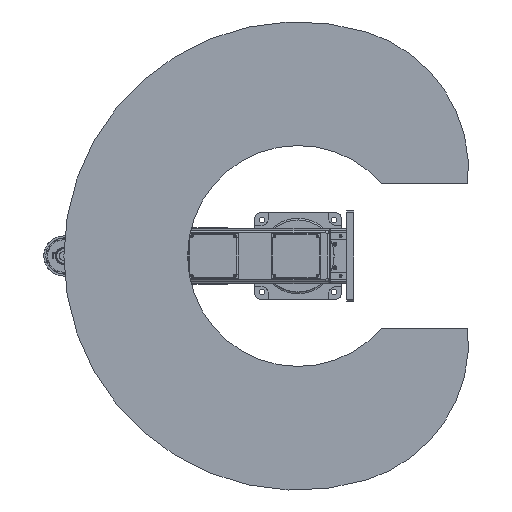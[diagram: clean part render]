
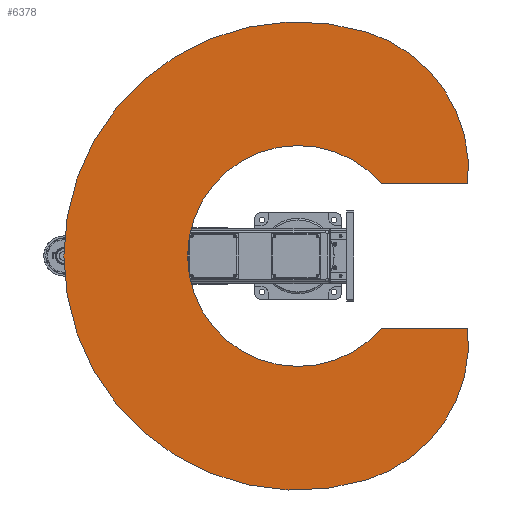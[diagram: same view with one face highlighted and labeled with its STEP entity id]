
A CAD part, front view. The second image highlights one B-rep face of the part: STEP entity #6378.
In plain terms, the highlighted planar face has unit normal (0, -1, 0).
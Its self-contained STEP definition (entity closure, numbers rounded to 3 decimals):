
#6378 = ADVANCED_FACE( '', ( #14263 ), #14264, .F. );
#14263 = FACE_OUTER_BOUND( '', #23914, .T. );
#14264 = PLANE( '', #23915 );
#23914 = EDGE_LOOP( '', ( #42023, #42024, #42025, #42026, #42027, #42028 ) );
#23915 = AXIS2_PLACEMENT_3D( '', #42029, #42030, #42031 );
#42023 = ORIENTED_EDGE( '', *, *, #55161, .F. );
#42024 = ORIENTED_EDGE( '', *, *, #53986, .F. );
#42025 = ORIENTED_EDGE( '', *, *, #55162, .T. );
#42026 = ORIENTED_EDGE( '', *, *, #54963, .F. );
#42027 = ORIENTED_EDGE( '', *, *, #55163, .F. );
#42028 = ORIENTED_EDGE( '', *, *, #51331, .F. );
#42029 = CARTESIAN_POINT( '', ( 239.076, 0., 73.093 ) );
#42030 = DIRECTION( '', ( 0., 1., 0. ) );
#42031 = DIRECTION( '', ( 0., 0., 1. ) );
#51331 = EDGE_CURVE( '', #61646, #61647, #61648, .T. );
#53986 = EDGE_CURVE( '', #65587, #65588, #65589, .T. );
#54963 = EDGE_CURVE( '', #66854, #66855, #66856, .T. );
#55161 = EDGE_CURVE( '', #65588, #61646, #67097, .T. );
#55162 = EDGE_CURVE( '', #65587, #66855, #67098, .T. );
#55163 = EDGE_CURVE( '', #61647, #66854, #67099, .T. );
#61646 = VERTEX_POINT( '', #76668 );
#61647 = VERTEX_POINT( '', #76669 );
#61648 = CIRCLE( '', #76670, 650. );
#65587 = VERTEX_POINT( '', #83413 );
#65588 = VERTEX_POINT( '', #83414 );
#65589 = LINE( '', #83415, #83416 );
#66854 = VERTEX_POINT( '', #85472 );
#66855 = VERTEX_POINT( '', #85473 );
#66856 = LINE( '', #85474, #85475 );
#67097 = CIRCLE( '', #85885, 400. );
#67098 = CIRCLE( '', #85886, 306.5 );
#67099 = CIRCLE( '', #85887, 400. );
#76668 = CARTESIAN_POINT( '', ( 621.598, 0., 190.042 ) );
#76669 = CARTESIAN_POINT( '', ( -621.598, 0., 190.042 ) );
#76670 = AXIS2_PLACEMENT_3D( '', #92225, #92226, #92227 );
#83413 = CARTESIAN_POINT( '', ( 200., 0., 232.255 ) );
#83414 = CARTESIAN_POINT( '', ( 200., 0., 471.18 ) );
#83415 = CARTESIAN_POINT( '', ( 200., 0., 232.255 ) );
#83416 = VECTOR( '', #95241, 1000. );
#85472 = CARTESIAN_POINT( '', ( -200., 0., 471.18 ) );
#85473 = CARTESIAN_POINT( '', ( -200., 0., 232.255 ) );
#85474 = CARTESIAN_POINT( '', ( -200., 0., 471.18 ) );
#85475 = VECTOR( '', #96208, 1000. );
#85885 = AXIS2_PLACEMENT_3D( '', #96386, #96387, #96388 );
#85886 = AXIS2_PLACEMENT_3D( '', #96389, #96390, #96391 );
#85887 = AXIS2_PLACEMENT_3D( '', #96392, #96393, #96394 );
#92225 = CARTESIAN_POINT( '', ( 0., 0., 0. ) );
#92226 = DIRECTION( '', ( 0., 1., 0. ) );
#92227 = DIRECTION( '', ( 1., 0., 0. ) );
#95241 = DIRECTION( '', ( 0., 0., 1. ) );
#96208 = DIRECTION( '', ( 0., 0., -1. ) );
#96386 = CARTESIAN_POINT( '', ( 239.076, 0., 73.093 ) );
#96387 = DIRECTION( '', ( 0., 1., 0. ) );
#96388 = DIRECTION( '', ( 1., 0., 0. ) );
#96389 = CARTESIAN_POINT( '', ( 0., 0., 0. ) );
#96390 = DIRECTION( '', ( 0., 1., 0. ) );
#96391 = DIRECTION( '', ( 1., 0., 0. ) );
#96392 = CARTESIAN_POINT( '', ( -239.076, 0., 73.093 ) );
#96393 = DIRECTION( '', ( 0., 1., 0. ) );
#96394 = DIRECTION( '', ( 1., 0., 0. ) );
